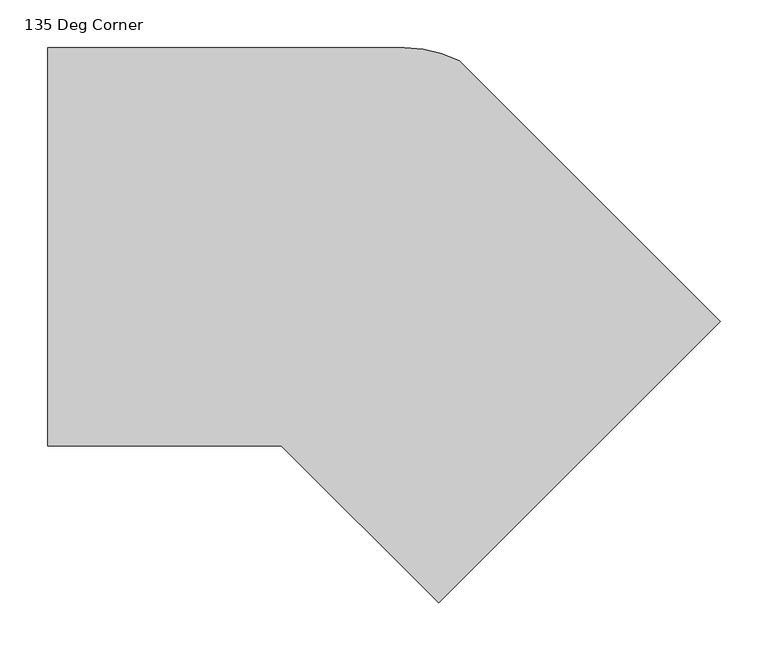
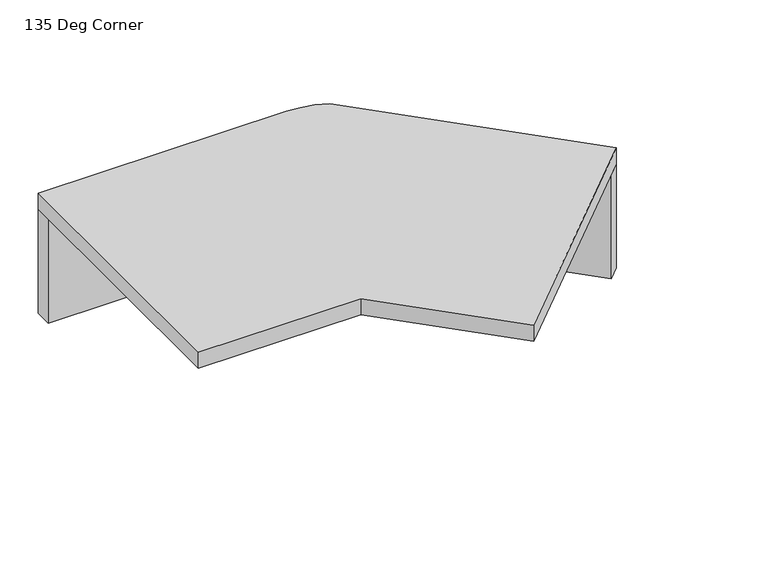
"""IFC4 building model written with IfcOpenShell, lengths in millimetres: furniture geometry, HermanMiller_Ethospace_E2831_SqEdgeCounterTopCorner : 135 Deg Corner."""

from ifc_helpers import new_model, si_unit, point, frame, frame_2d, origin, place, context, project, spatial, polyline, circle_curve, trimmed, segment, composite_curve, outline, extrude, source, transform, mapped, element, save


def furniture_135_deg_corner_e0015eda(model_context):
    return source(origin(), model_context, "Body", "SweptSolid", [
        extrude(outline(composite_curve([segment(trimmed(circle_curve(frame_2d((40.34028, 92.1815795)), 129.0934134), [point((40.34028, 221.274993))], [point((97.7521187, 207.8059289))], False, "CARTESIAN"), True, "CONTINUOUS"), segment(polyline([(97.7521187, 207.8059289), (370.3682386, -64.810191), (76.2648506, -358.9135789), (-87.9987213, -194.650007), (-331.8002, -194.650007), (-331.8002, 221.274993), (40.34028, 221.274993)]), True, "CONTINUOUS")], self_intersect=False)), frame((0.0, 0.0, 1054.1), z_axis=(0.0, 0.0, 1.0), x_axis=(1.0, 0.0, 0.0)), (0.0, 0.0, 1.0), 25.4),
        extrude(outline(composite_curve([segment(trimmed(circle_curve(frame_2d((40.34028, 92.1815795)), 129.0934134), [point((40.34028, 221.274993))], [point((97.7521187, 207.8059289))], False, "CARTESIAN"), True, "CONTINUOUS"), segment(polyline([(97.7521187, 207.8059289), (370.3682386, -64.810191), (352.4077263, -82.7707032), (82.8974777, 186.7395454)]), True, "CONTINUOUS"), segment(trimmed(circle_curve(frame_2d((40.34028, 92.1815795)), 103.6934134), [point((82.8974777, 186.7395454))], [point((40.34028, 195.874993))], True, "CARTESIAN"), True, "CONTINUOUS"), segment(polyline([(40.34028, 195.874993), (-331.8002, 195.874993), (-331.8002, 221.274993), (40.34028, 221.274993)]), True, "CONTINUOUS")], self_intersect=False)), frame((0.0, 0.0, 889.0), z_axis=(0.0, 0.0, 1.0), x_axis=(1.0, 0.0, 0.0)), (0.0, 0.0, 1.0), 165.1),
    ])


if __name__ == "__main__":
    model = new_model("IFC4")
    model_context = context("Model", 3, world=origin())
    ifc_project = project(units=[si_unit("LENGTHUNIT", "METRE", prefix="MILLI")], contexts=[model_context])
    site = spatial("IfcSite", under=ifc_project)
    building = spatial("IfcBuilding", under=site)
    placement = place(None, origin())
    furniture_135_deg_corner_shape = furniture_135_deg_corner_e0015eda(model_context)
    element("IfcFurniture", 1, ObjectType="HermanMiller_Ethospace_E2831_SqEdgeCounterTopCorner : 135 Deg Corner", at=placement, inside=building, context=model_context, shape_type="MappedRepresentation", body=[
        mapped(furniture_135_deg_corner_shape, transform((0.0, 0.0, 0.0), x_axis=(1.0, 0.0, 0.0), y_axis=(0.0, 1.0, 0.0), z_axis=(0.0, 0.0, 1.0))),
    ])
    save(model, "model.ifc")
